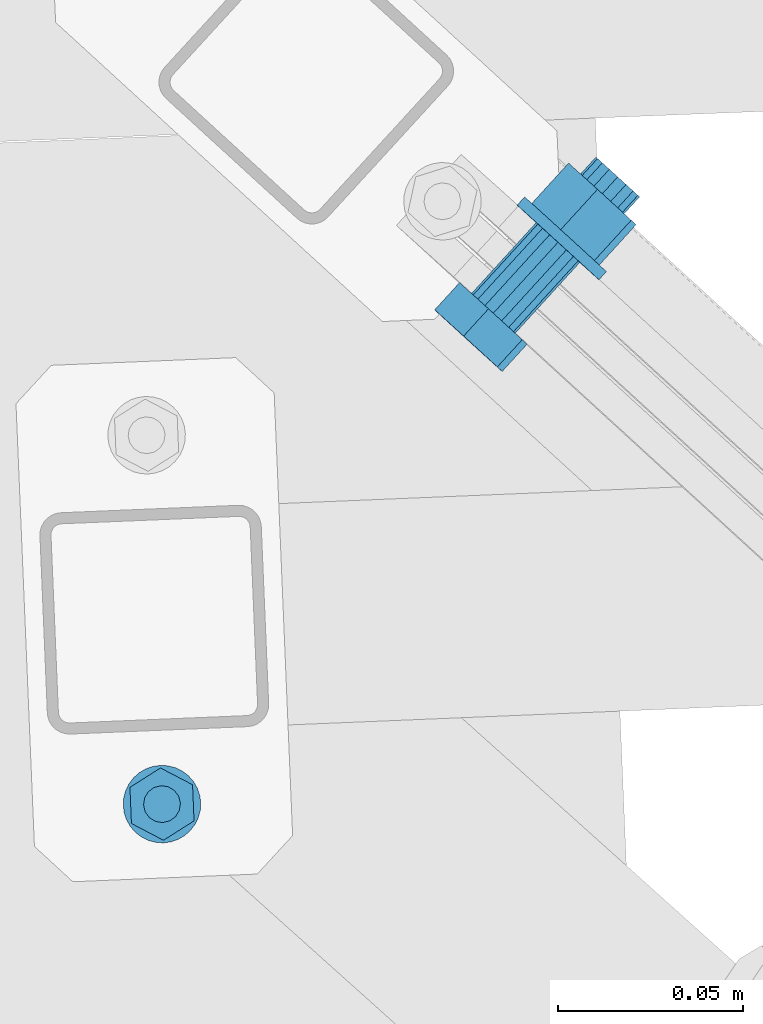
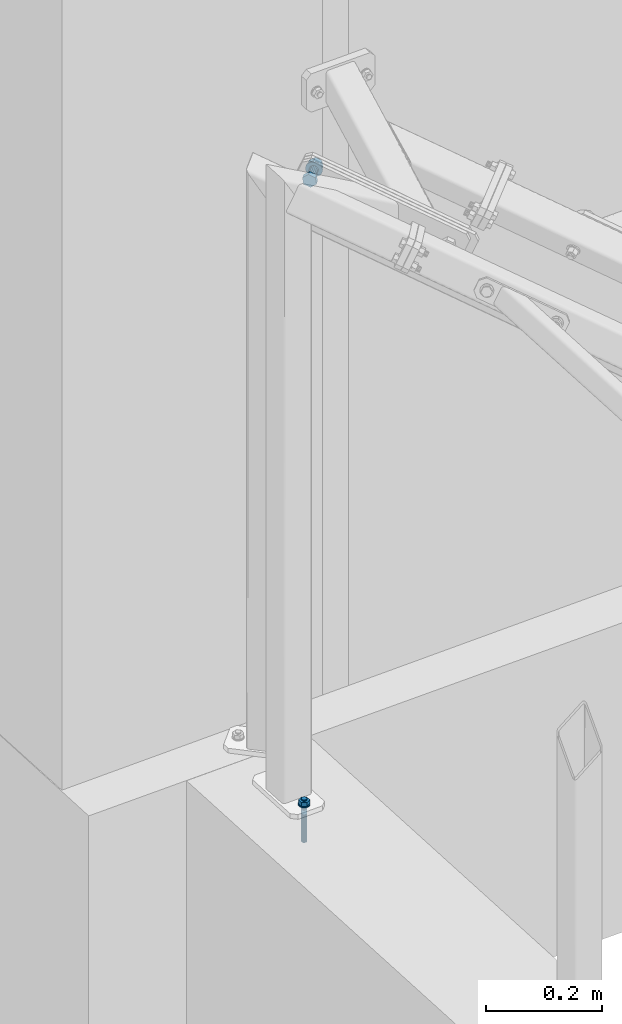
# One storey, part 253 of 288: 2 mechanical fasteners.
"""IFC2X3 building model written with IfcOpenShell, lengths in millimetres."""

from ifc_helpers import new_model, entity, si_unit, converted_unit, origin_with_axes, place, context, project, spatial, faceted_brep, element, save


model = new_model("IFC2X3")

# Units and contexts
model_context = context("Model", 3, precision=1e-09, world=origin_with_axes())
ifc_project = project(units=[si_unit("LENGTHUNIT", "METRE", prefix="MILLI"), si_unit("AREAUNIT", "SQUARE_METRE"), si_unit("VOLUMEUNIT", "CUBIC_METRE"), converted_unit("PLANEANGLEUNIT", "DEGREE", entity("IfcPlaneAngleMeasure", 0.01745329), si_unit("PLANEANGLEUNIT", "RADIAN"), dimensions=[0, 0, 0, 0, 0, 0, 0])], contexts=[model_context])

# Site, building, storey
site_placement = place(None, origin_with_axes())
site = spatial("IfcSite", under=ifc_project, at=site_placement, Name="Remont ?wietlik?w nad MC w NCPP w Opolu", CompositionType="ELEMENT")
building_placement = place(site_placement, origin_with_axes())
building = spatial("IfcBuilding", under=site, at=building_placement, Name="Konstrukcja 1", CompositionType="ELEMENT")
storey_placement = place(building_placement, origin_with_axes())
storey = spatial("IfcBuildingStorey", under=building, at=storey_placement, Name="Default Storey", CompositionType="ELEMENT", Elevation=0.0)

# Mechanical fasteners
mechanical_fastener_1_placement = place(None, origin_with_axes())
element("IfcMechanicalFastener", 1, at=mechanical_fastener_1_placement, inside=storey, ObjectType="Anchor_Bolt", NominalDiameter=10.0, NominalLength=90.0, context=model_context, shape_type="Brep", body=[
    faceted_brep([(-771.450382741, 15245.164944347, 12.010000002), (-771.450382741, 15245.164944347, 10.010000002), (-771.163440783, 15243.126682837, 10.010000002), (-771.163440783, 15243.126682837, 12.010000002), (-770.48436724, 15241.18356555, 10.010000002), (-770.48436724, 15241.18356555, 12.010000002), (-769.439258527, 15239.410265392, 10.010000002), (-769.439258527, 15239.410265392, 12.010000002), (-768.068277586, 15237.874929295, 10.010000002), (-768.068277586, 15237.874929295, 12.010000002), (-766.424110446, 15236.636559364, 10.010000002), (-766.424110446, 15236.636559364, 12.010000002), (-764.569941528, 15235.74274546, 10.010000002), (-764.569941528, 15235.74274546, 12.010000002), (-762.577025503, 15235.227836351, 10.010000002), (-762.577025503, 15235.227836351, 12.010000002), (-760.521949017, 15235.111619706, 10.010000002), (-760.521949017, 15235.111619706, 12.010000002), (-758.483687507, 15235.398561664, 10.010000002), (-758.483687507, 15235.398561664, 12.010000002), (-756.540570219, 15236.077635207, 10.010000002), (-756.540570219, 15236.077635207, 12.010000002), (-754.767270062, 15237.12274392, 10.010000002), (-754.767270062, 15237.12274392, 12.010000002), (-753.231933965, 15238.493724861, 10.010000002), (-753.231933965, 15238.493724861, 12.010000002), (-751.993564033, 15240.137892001, 10.010000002), (-751.993564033, 15240.137892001, 12.010000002), (-751.09975013, 15241.992060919, 10.010000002), (-751.09975013, 15241.992060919, 12.010000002), (-750.584841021, 15243.984976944, 10.010000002), (-750.584841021, 15243.984976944, 12.010000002), (-750.468624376, 15246.04005343, 10.010000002), (-750.468624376, 15246.04005343, 12.010000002), (-750.755566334, 15248.07831494, 10.010000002), (-750.755566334, 15248.07831494, 12.010000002), (-751.434639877, 15250.021432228, 10.010000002), (-751.434639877, 15250.021432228, 12.010000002), (-752.47974859, 15251.794732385, 10.010000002), (-752.47974859, 15251.794732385, 12.010000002), (-753.850729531, 15253.330068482, 10.010000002), (-753.850729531, 15253.330068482, 12.010000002), (-755.494896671, 15254.568438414, 10.010000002), (-755.494896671, 15254.568438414, 12.010000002), (-757.349065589, 15255.462252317, 10.010000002), (-757.349065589, 15255.462252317, 12.010000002), (-759.341981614, 15255.977161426, 10.010000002), (-759.341981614, 15255.977161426, 12.010000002), (-761.3970581, 15256.093378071, 10.010000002), (-761.3970581, 15256.093378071, 12.010000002), (-763.43531961, 15255.806436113, 10.010000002), (-763.43531961, 15255.806436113, 12.010000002), (-765.378436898, 15255.12736257, 10.010000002), (-765.378436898, 15255.12736257, 12.010000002), (-767.151737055, 15254.082253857, 10.010000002), (-767.151737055, 15254.082253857, 12.010000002), (-768.687073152, 15252.711272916, 10.010000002), (-768.687073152, 15252.711272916, 12.010000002), (-769.925443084, 15251.067105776, 10.010000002), (-769.925443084, 15251.067105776, 12.010000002), (-770.819256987, 15249.212936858, 10.010000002), (-770.819256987, 15249.212936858, 12.010000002), (-771.334166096, 15247.220020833, 10.010000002), (-771.334166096, 15247.220020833, 12.010000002)], [[[0, 1, 2, 3]], [[3, 2, 4, 5]], [[5, 4, 6, 7]], [[7, 6, 8, 9]], [[9, 8, 10, 11]], [[11, 10, 12, 13]], [[13, 12, 14, 15]], [[15, 14, 16, 17]], [[17, 16, 18, 19]], [[19, 18, 20, 21]], [[21, 20, 22, 23]], [[23, 22, 24, 25]], [[25, 24, 26, 27]], [[27, 26, 28, 29]], [[29, 28, 30, 31]], [[31, 30, 32, 33]], [[33, 32, 34, 35]], [[35, 34, 36, 37]], [[37, 36, 38, 39]], [[39, 38, 40, 41]], [[41, 40, 42, 43]], [[43, 42, 44, 45]], [[45, 44, 46, 47]], [[47, 46, 48, 49]], [[49, 48, 50, 51]], [[51, 50, 52, 53]], [[53, 52, 54, 55]], [[55, 54, 56, 57]], [[57, 56, 58, 59]], [[59, 58, 60, 61]], [[61, 60, 62, 63]], [[63, 62, 1, 0]], [[0, 3, 5, 7, 9, 11, 13, 15, 17, 19, 21, 23, 25, 27, 29, 31, 33, 35, 37, 39, 41, 43, 45, 47, 49, 51, 53, 55, 57, 59, 61, 63]], [[1, 62, 60, 58, 56, 54, 52, 50, 48, 46, 44, 42, 40, 38, 36, 34, 32, 30, 28, 26, 24, 22, 20, 18, 16, 14, 12, 10, 8, 6, 4, 2]]]),
    faceted_brep([(-752.275634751, 15241.060426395, 12.010000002), (-752.275634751, 15241.060426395, 20.010000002), (-760.55111932, 15235.811011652, 20.010000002), (-760.55111932, 15235.811011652, 12.010000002), (-769.234988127, 15240.353084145, 20.010000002), (-769.234988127, 15240.353084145, 12.010000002), (-769.643372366, 15250.144571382, 20.010000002), (-769.643372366, 15250.144571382, 12.010000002), (-761.367887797, 15255.393986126, 20.010000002), (-761.367887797, 15255.393986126, 12.010000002), (-752.68401899, 15250.851913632, 20.010000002), (-752.68401899, 15250.851913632, 12.010000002)], [[[0, 1, 2, 3]], [[3, 2, 4, 5]], [[5, 4, 6, 7]], [[7, 6, 8, 9]], [[9, 8, 10, 11]], [[11, 10, 1, 0]], [[4, 2, 1, 10, 8, 6]], [[0, 3, 5, 7, 9, 11]]]),
    faceted_brep([(-765.955160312, 15245.394139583, 23.010000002), (-765.955160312, 15245.394139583, 20.010000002), (-765.495152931, 15243.498244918, 20.010000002), (-765.495152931, 15243.498244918, 23.010000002), (-764.344634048, 15241.922703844, 20.010000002), (-764.344634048, 15241.922703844, 23.010000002), (-762.678759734, 15240.907378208, 20.010000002), (-762.678759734, 15240.907378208, 23.010000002), (-760.751144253, 15240.606842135, 20.010000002), (-760.751144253, 15240.606842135, 23.010000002), (-758.855249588, 15241.066849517, 20.010000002), (-758.855249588, 15241.066849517, 23.010000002), (-757.279708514, 15242.217368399, 20.010000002), (-757.279708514, 15242.217368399, 23.010000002), (-756.264382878, 15243.883242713, 20.010000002), (-756.264382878, 15243.883242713, 23.010000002), (-755.963846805, 15245.810858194, 20.010000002), (-755.963846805, 15245.810858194, 23.010000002), (-756.423854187, 15247.70675286, 20.010000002), (-756.423854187, 15247.70675286, 23.010000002), (-757.574373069, 15249.282293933, 20.010000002), (-757.574373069, 15249.282293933, 23.010000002), (-759.240247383, 15250.297619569, 20.010000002), (-759.240247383, 15250.297619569, 23.010000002), (-761.167862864, 15250.598155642, 20.010000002), (-761.167862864, 15250.598155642, 23.010000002), (-763.063757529, 15250.138148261, 20.010000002), (-763.063757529, 15250.138148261, 23.010000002), (-764.639298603, 15248.987629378, 20.010000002), (-764.639298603, 15248.987629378, 23.010000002), (-765.654624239, 15247.321755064, 20.010000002), (-765.654624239, 15247.321755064, 23.010000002)], [[[0, 1, 2, 3]], [[3, 2, 4, 5]], [[5, 4, 6, 7]], [[7, 6, 8, 9]], [[9, 8, 10, 11]], [[11, 10, 12, 13]], [[13, 12, 14, 15]], [[15, 14, 16, 17]], [[17, 16, 18, 19]], [[19, 18, 20, 21]], [[21, 20, 22, 23]], [[23, 22, 24, 25]], [[25, 24, 26, 27]], [[27, 26, 28, 29]], [[29, 28, 30, 31]], [[31, 30, 1, 0]], [[0, 3, 5, 7, 9, 11, 13, 15, 17, 19, 21, 23, 25, 27, 29, 31]], [[1, 30, 28, 26, 24, 22, 20, 18, 16, 14, 12, 10, 8, 6, 4, 2]]]),
    faceted_brep([(-765.955160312, 15245.394139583, 10.010000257), (-765.955160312, 15245.394139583, 0.010000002), (-765.495152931, 15243.498244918, 0.010000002), (-765.495152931, 15243.498244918, 10.010000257), (-764.344634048, 15241.922703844, 0.010000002), (-764.344634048, 15241.922703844, 10.010000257), (-762.678759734, 15240.907378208, 0.010000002), (-762.678759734, 15240.907378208, 10.010000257), (-760.751144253, 15240.606842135, 0.010000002), (-760.751144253, 15240.606842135, 10.010000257), (-758.855249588, 15241.066849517, 0.010000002), (-758.855249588, 15241.066849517, 10.010000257), (-757.279708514, 15242.217368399, 0.010000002), (-757.279708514, 15242.217368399, 10.010000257), (-756.264382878, 15243.883242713, 0.010000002), (-756.264382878, 15243.883242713, 10.010000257), (-755.963846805, 15245.810858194, 0.010000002), (-755.963846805, 15245.810858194, 10.010000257), (-756.423854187, 15247.70675286, 0.010000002), (-756.423854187, 15247.70675286, 10.010000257), (-757.574373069, 15249.282293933, 0.010000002), (-757.574373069, 15249.282293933, 10.010000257), (-759.240247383, 15250.297619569, 0.010000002), (-759.240247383, 15250.297619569, 10.010000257), (-761.167862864, 15250.598155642, 0.010000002), (-761.167862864, 15250.598155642, 10.010000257), (-763.063757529, 15250.138148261, 0.010000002), (-763.063757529, 15250.138148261, 10.010000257), (-764.639298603, 15248.987629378, 0.010000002), (-764.639298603, 15248.987629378, 10.010000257), (-765.654624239, 15247.321755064, 0.010000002), (-765.654624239, 15247.321755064, 10.010000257)], [[[0, 1, 2, 3]], [[3, 2, 4, 5]], [[5, 4, 6, 7]], [[7, 6, 8, 9]], [[9, 8, 10, 11]], [[11, 10, 12, 13]], [[13, 12, 14, 15]], [[15, 14, 16, 17]], [[17, 16, 18, 19]], [[19, 18, 20, 21]], [[21, 20, 22, 23]], [[23, 22, 24, 25]], [[25, 24, 26, 27]], [[27, 26, 28, 29]], [[29, 28, 30, 31]], [[31, 30, 1, 0]], [[0, 3, 5, 7, 9, 11, 13, 15, 17, 19, 21, 23, 25, 27, 29, 31]], [[1, 30, 28, 26, 24, 22, 20, 18, 16, 14, 12, 10, 8, 6, 4, 2]]]),
    faceted_brep([(-765.955160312, 15245.394139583, 0.009999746), (-765.955160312, 15245.394139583, -6.989999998), (-765.818521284, 15244.423538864, -6.989999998), (-765.818521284, 15244.423538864, 0.009999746), (-765.495152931, 15243.498244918, -6.989999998), (-765.495152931, 15243.498244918, 0.009999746), (-764.997482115, 15242.653816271, -6.989999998), (-764.997482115, 15242.653816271, 0.009999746), (-764.344634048, 15241.922703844, -6.989999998), (-764.344634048, 15241.922703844, 0.009999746), (-763.561697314, 15241.333003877, -6.989999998), (-763.561697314, 15241.333003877, 0.009999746), (-762.678759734, 15240.907378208, -6.989999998), (-762.678759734, 15240.907378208, 0.009999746), (-761.729752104, 15240.662183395, -6.989999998), (-761.729752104, 15240.662183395, 0.009999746), (-760.751144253, 15240.606842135, -6.989999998), (-760.751144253, 15240.606842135, 0.009999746), (-759.780543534, 15240.743481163, -6.989999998), (-759.780543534, 15240.743481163, 0.009999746), (-758.855249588, 15241.066849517, -6.989999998), (-758.855249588, 15241.066849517, 0.009999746), (-758.010820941, 15241.564520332, -6.989999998), (-758.010820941, 15241.564520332, 0.009999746), (-757.279708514, 15242.217368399, -6.989999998), (-757.279708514, 15242.217368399, 0.009999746), (-756.690008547, 15243.000305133, -6.989999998), (-756.690008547, 15243.000305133, 0.009999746), (-756.264382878, 15243.883242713, -6.989999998), (-756.264382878, 15243.883242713, 0.009999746), (-756.019188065, 15244.832250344, -6.989999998), (-756.019188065, 15244.832250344, 0.009999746), (-755.963846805, 15245.810858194, -6.989999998), (-755.963846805, 15245.810858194, 0.009999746), (-756.100485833, 15246.781458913, -6.989999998), (-756.100485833, 15246.781458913, 0.009999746), (-756.423854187, 15247.70675286, -6.989999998), (-756.423854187, 15247.70675286, 0.009999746), (-756.921525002, 15248.551181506, -6.989999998), (-756.921525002, 15248.551181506, 0.009999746), (-757.574373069, 15249.282293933, -6.989999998), (-757.574373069, 15249.282293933, 0.009999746), (-758.357309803, 15249.871993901, -6.989999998), (-758.357309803, 15249.871993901, 0.009999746), (-759.240247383, 15250.297619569, -6.989999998), (-759.240247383, 15250.297619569, 0.009999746), (-760.189255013, 15250.542814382, -6.989999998), (-760.189255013, 15250.542814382, 0.009999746), (-761.167862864, 15250.598155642, -6.989999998), (-761.167862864, 15250.598155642, 0.009999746), (-762.138463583, 15250.461516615, -6.989999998), (-762.138463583, 15250.461516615, 0.009999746), (-763.063757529, 15250.138148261, -6.989999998), (-763.063757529, 15250.138148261, 0.009999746), (-763.908186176, 15249.640477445, -6.989999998), (-763.908186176, 15249.640477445, 0.009999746), (-764.639298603, 15248.987629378, -6.989999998), (-764.639298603, 15248.987629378, 0.009999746), (-765.22899857, 15248.204692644, -6.989999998), (-765.22899857, 15248.204692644, 0.009999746), (-765.654624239, 15247.321755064, -6.989999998), (-765.654624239, 15247.321755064, 0.009999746), (-765.899819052, 15246.372747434, -6.989999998), (-765.899819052, 15246.372747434, 0.009999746)], [[[0, 1, 2, 3]], [[3, 2, 4, 5]], [[5, 4, 6, 7]], [[7, 6, 8, 9]], [[9, 8, 10, 11]], [[11, 10, 12, 13]], [[13, 12, 14, 15]], [[15, 14, 16, 17]], [[17, 16, 18, 19]], [[19, 18, 20, 21]], [[21, 20, 22, 23]], [[23, 22, 24, 25]], [[25, 24, 26, 27]], [[27, 26, 28, 29]], [[29, 28, 30, 31]], [[31, 30, 32, 33]], [[33, 32, 34, 35]], [[35, 34, 36, 37]], [[37, 36, 38, 39]], [[39, 38, 40, 41]], [[41, 40, 42, 43]], [[43, 42, 44, 45]], [[45, 44, 46, 47]], [[47, 46, 48, 49]], [[49, 48, 50, 51]], [[51, 50, 52, 53]], [[53, 52, 54, 55]], [[55, 54, 56, 57]], [[57, 56, 58, 59]], [[59, 58, 60, 61]], [[61, 60, 62, 63]], [[63, 62, 1, 0]], [[0, 3, 5, 7, 9, 11, 13, 15, 17, 19, 21, 23, 25, 27, 29, 31, 33, 35, 37, 39, 41, 43, 45, 47, 49, 51, 53, 55, 57, 59, 61, 63]], [[1, 62, 60, 58, 56, 54, 52, 50, 48, 46, 44, 42, 40, 38, 36, 34, 32, 30, 28, 26, 24, 22, 20, 18, 16, 14, 12, 10, 8, 6, 4, 2]]]),
    faceted_brep([(-765.955160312, 15245.394139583, -6.989999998), (-765.955160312, 15245.394139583, -66.989999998), (-765.495152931, 15243.498244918, -66.989999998), (-765.495152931, 15243.498244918, -6.989999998), (-764.344634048, 15241.922703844, -66.989999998), (-764.344634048, 15241.922703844, -6.989999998), (-762.678759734, 15240.907378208, -66.989999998), (-762.678759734, 15240.907378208, -6.989999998), (-760.751144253, 15240.606842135, -66.989999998), (-760.751144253, 15240.606842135, -6.989999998), (-758.855249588, 15241.066849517, -66.989999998), (-758.855249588, 15241.066849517, -6.989999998), (-757.279708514, 15242.217368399, -66.989999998), (-757.279708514, 15242.217368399, -6.989999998), (-756.264382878, 15243.883242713, -66.989999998), (-756.264382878, 15243.883242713, -6.989999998), (-755.963846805, 15245.810858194, -66.989999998), (-755.963846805, 15245.810858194, -6.989999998), (-756.423854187, 15247.70675286, -66.989999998), (-756.423854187, 15247.70675286, -6.989999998), (-757.574373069, 15249.282293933, -66.989999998), (-757.574373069, 15249.282293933, -6.989999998), (-759.240247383, 15250.297619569, -66.989999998), (-759.240247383, 15250.297619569, -6.989999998), (-761.167862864, 15250.598155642, -66.989999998), (-761.167862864, 15250.598155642, -6.989999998), (-763.063757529, 15250.138148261, -66.989999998), (-763.063757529, 15250.138148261, -6.989999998), (-764.639298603, 15248.987629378, -66.989999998), (-764.639298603, 15248.987629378, -6.989999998), (-765.654624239, 15247.321755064, -66.989999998), (-765.654624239, 15247.321755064, -6.989999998)], [[[0, 1, 2, 3]], [[3, 2, 4, 5]], [[5, 4, 6, 7]], [[7, 6, 8, 9]], [[9, 8, 10, 11]], [[11, 10, 12, 13]], [[13, 12, 14, 15]], [[15, 14, 16, 17]], [[17, 16, 18, 19]], [[19, 18, 20, 21]], [[21, 20, 22, 23]], [[23, 22, 24, 25]], [[25, 24, 26, 27]], [[27, 26, 28, 29]], [[29, 28, 30, 31]], [[31, 30, 1, 0]], [[0, 3, 5, 7, 9, 11, 13, 15, 17, 19, 21, 23, 25, 27, 29, 31]], [[1, 30, 28, 26, 24, 22, 20, 18, 16, 14, 12, 10, 8, 6, 4, 2]]]),
])
mechanical_fastener_2_placement = place(None, origin_with_axes())
element("IfcMechanicalFastener", 2, at=mechanical_fastener_2_placement, inside=storey, ObjectType="-", NominalDiameter=16.0, NominalLength=50.0, context=model_context, shape_type="Brep", body=[
    faceted_brep([(-663.387489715, 15371.406661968, 1222.813577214), (-670.127516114, 15364.019462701, 1222.850061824), (-668.829917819, 15362.770087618, 1209.596914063), (-662.08989142, 15370.157286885, 1209.560429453), (-676.663770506, 15369.877207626, 1201.410936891), (-669.923744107, 15377.264406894, 1201.37445228), (-685.795221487, 15378.233702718, 1206.478107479), (-679.055195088, 15385.620901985, 1206.441622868), (-687.092819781, 15379.483077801, 1219.731255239), (-680.352793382, 15386.870277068, 1219.694770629), (-679.258967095, 15372.375957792, 1227.917232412), (-672.518940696, 15379.76315706, 1227.880747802)], [[[0, 1, 2, 3]], [[3, 2, 4, 5]], [[5, 4, 6, 7]], [[7, 6, 8, 9]], [[9, 8, 10, 11]], [[11, 10, 1, 0]], [[4, 2, 1, 10, 8, 6]], [[0, 3, 5, 7, 9, 11]]]),
    faceted_brep([(-673.478513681, 15380.536642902, 1207.224005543), (-655.954445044, 15399.743360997, 1207.129145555), (-653.6924868, 15397.676621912, 1206.532861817), (-671.216555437, 15378.469903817, 1206.627721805), (-651.431257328, 15395.616562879, 1207.154487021), (-668.955325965, 15376.409844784, 1207.249347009), (-649.515008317, 15393.876809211, 1208.899384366), (-667.039076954, 15374.670091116, 1208.994244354), (-648.235471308, 15392.722222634, 1211.501909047), (-665.759539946, 15373.515504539, 1211.596769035), (-647.787444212, 15392.328578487, 1214.565850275), (-665.311512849, 15373.121860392, 1214.660710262), (-648.239135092, 15392.755805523, 1217.624750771), (-665.763203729, 15373.549087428, 1217.719610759), (-649.521778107, 15393.9388623, 1220.212920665), (-667.045846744, 15374.732144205, 1220.307780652), (-651.440102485, 15395.697639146, 1221.936334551), (-668.964171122, 15376.490921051, 1222.031194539), (-653.702060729, 15397.764378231, 1222.532618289), (-671.226129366, 15378.557660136, 1222.627478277), (-655.9632902, 15399.824437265, 1221.910993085), (-673.487358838, 15380.61771917, 1222.005853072), (-657.879539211, 15401.564190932, 1220.16609574), (-675.403607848, 15382.357472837, 1220.260955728), (-659.15907622, 15402.71877751, 1217.563571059), (-676.683144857, 15383.512059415, 1217.658431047), (-659.607103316, 15403.112421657, 1214.499629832), (-677.131171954, 15383.905703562, 1214.594489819), (-659.155412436, 15402.68519462, 1211.440729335), (-676.679481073, 15383.478476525, 1211.535589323), (-657.872769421, 15401.502137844, 1208.852559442), (-675.396838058, 15382.295419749, 1208.947419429)], [[[0, 1, 2, 3]], [[3, 2, 4, 5]], [[5, 4, 6, 7]], [[7, 6, 8, 9]], [[9, 8, 10, 11]], [[11, 10, 12, 13]], [[13, 12, 14, 15]], [[15, 14, 16, 17]], [[17, 16, 18, 19]], [[19, 18, 20, 21]], [[21, 20, 22, 23]], [[23, 22, 24, 25]], [[25, 24, 26, 27]], [[27, 26, 28, 29]], [[29, 28, 30, 31]], [[31, 30, 1, 0]], [[0, 3, 5, 7, 9, 11, 13, 15, 17, 19, 21, 23, 25, 27, 29, 31]], [[1, 30, 28, 26, 24, 22, 20, 18, 16, 14, 12, 10, 8, 6, 4, 2]]]),
    faceted_brep([(-657.929469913, 15401.513364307, 1200.651000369), (-655.907461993, 15403.729524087, 1200.640054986), (-653.828245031, 15401.828303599, 1199.798127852), (-655.850252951, 15399.612143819, 1199.809073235), (-651.666290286, 15399.854388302, 1199.522022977), (-653.688298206, 15397.638228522, 1199.53296836), (-649.504680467, 15397.883634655, 1199.822350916), (-651.526688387, 15395.667474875, 1199.8332963), (-647.426485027, 15395.991777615, 1200.687570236), (-649.448492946, 15393.775617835, 1200.698515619), (-645.51156785, 15394.251520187, 1202.084431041), (-647.53357577, 15392.035360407, 1202.095376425), (-643.833518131, 15392.729739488, 1203.959252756), (-645.855526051, 15390.513579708, 1203.97019814), (-642.456822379, 15391.484916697, 1206.239987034), (-644.478830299, 15389.268756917, 1206.250932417), (-641.43438624, 15390.564889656, 1208.838986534), (-643.456394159, 15388.348729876, 1208.849931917), (-640.80550136, 15390.005014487, 1211.656373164), (-642.82750928, 15387.788854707, 1211.667318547), (-640.594335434, 15389.82680688, 1214.583876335), (-642.616343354, 15387.6106471, 1214.594821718), (-640.80900345, 15390.037115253, 1217.508993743), (-642.831011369, 15387.820955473, 1217.519939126), (-641.441255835, 15390.627857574, 1220.319314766), (-643.463263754, 15388.411697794, 1220.330260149), (-642.466795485, 15391.576331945, 1222.906840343), (-644.488803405, 15389.360172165, 1222.917785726), (-643.846211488, 15392.84608903, 1225.172133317), (-645.868219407, 15390.629929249, 1225.1830787), (-645.526493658, 15394.388332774, 1227.028139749), (-647.548501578, 15392.172172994, 1227.039085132), (-647.443069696, 15396.143795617, 1228.403534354), (-649.465077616, 15393.927635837, 1228.414479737), (-649.522286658, 15398.045016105, 1229.245461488), (-651.544294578, 15395.828856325, 1229.256406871), (-651.684241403, 15400.018931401, 1229.521566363), (-653.706249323, 15397.802771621, 1229.532511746), (-653.845851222, 15401.989685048, 1229.221238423), (-655.867859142, 15399.773525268, 1229.232183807), (-655.924046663, 15403.881542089, 1228.356019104), (-657.946054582, 15401.665382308, 1228.366964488), (-657.838963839, 15405.621799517, 1226.959158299), (-659.860971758, 15403.405639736, 1226.970103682), (-659.517013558, 15407.143580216, 1225.084336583), (-661.539021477, 15404.927420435, 1225.095281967), (-660.89370931, 15408.388403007, 1222.803602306), (-662.91571723, 15406.172243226, 1222.814547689), (-661.916145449, 15409.308430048, 1220.204602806), (-663.938153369, 15407.092270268, 1220.215548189), (-662.545030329, 15409.868305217, 1217.387216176), (-664.567038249, 15407.652145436, 1217.398161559), (-662.756196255, 15410.046512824, 1214.459713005), (-664.778204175, 15407.830353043, 1214.470658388), (-662.54152824, 15409.83620445, 1211.534595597), (-664.563536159, 15407.62004467, 1211.54554098), (-661.909275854, 15409.24546213, 1208.724274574), (-663.931283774, 15407.02930235, 1208.735219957), (-660.883736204, 15408.296987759, 1206.136748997), (-662.905744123, 15406.080827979, 1206.14769438), (-659.504320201, 15407.027230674, 1203.871456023), (-661.526328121, 15404.811070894, 1203.882401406), (-657.824038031, 15405.48498693, 1202.015449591), (-659.84604595, 15403.26882715, 1202.026394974)], [[[0, 1, 2, 3]], [[3, 2, 4, 5]], [[5, 4, 6, 7]], [[7, 6, 8, 9]], [[9, 8, 10, 11]], [[11, 10, 12, 13]], [[13, 12, 14, 15]], [[15, 14, 16, 17]], [[17, 16, 18, 19]], [[19, 18, 20, 21]], [[21, 20, 22, 23]], [[23, 22, 24, 25]], [[25, 24, 26, 27]], [[27, 26, 28, 29]], [[29, 28, 30, 31]], [[31, 30, 32, 33]], [[33, 32, 34, 35]], [[35, 34, 36, 37]], [[37, 36, 38, 39]], [[39, 38, 40, 41]], [[41, 40, 42, 43]], [[43, 42, 44, 45]], [[45, 44, 46, 47]], [[47, 46, 48, 49]], [[49, 48, 50, 51]], [[51, 50, 52, 53]], [[53, 52, 54, 55]], [[55, 54, 56, 57]], [[57, 56, 58, 59]], [[59, 58, 60, 61]], [[61, 60, 62, 63]], [[63, 62, 1, 0]], [[0, 3, 5, 7, 9, 11, 13, 15, 17, 19, 21, 23, 25, 27, 29, 31, 33, 35, 37, 39, 41, 43, 45, 47, 49, 51, 53, 55, 57, 59, 61, 63]], [[1, 62, 60, 58, 56, 54, 52, 50, 48, 46, 44, 42, 40, 38, 36, 34, 32, 30, 28, 26, 24, 22, 20, 18, 16, 14, 12, 10, 8, 6, 4, 2]]]),
    faceted_brep([(-633.866174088, 15403.762594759, 1222.653774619), (-643.841413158, 15392.829539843, 1222.707771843), (-642.543814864, 15391.58016476, 1209.454624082), (-632.568575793, 15402.513219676, 1209.400626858), (-650.37766755, 15398.687284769, 1201.268646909), (-640.40242848, 15409.620339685, 1201.214649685), (-659.509118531, 15407.043779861, 1206.335817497), (-649.533879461, 15417.976834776, 1206.281820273), (-660.806716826, 15408.293154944, 1219.588965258), (-650.831477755, 15419.226209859, 1219.534968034), (-652.972864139, 15401.186034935, 1227.774942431), (-642.997625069, 15412.119089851, 1227.720945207)], [[[0, 1, 2, 3]], [[3, 2, 4, 5]], [[5, 4, 6, 7]], [[7, 6, 8, 9]], [[9, 8, 10, 11]], [[11, 10, 1, 0]], [[4, 2, 1, 10, 8, 6]], [[0, 3, 5, 7, 9, 11]]]),
    faceted_brep([(-643.957198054, 15412.892575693, 1207.064202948), (-639.778381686, 15417.472639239, 1207.041582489), (-637.516423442, 15415.405900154, 1206.445298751), (-641.69523981, 15410.825836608, 1206.46791921), (-635.255193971, 15413.345841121, 1207.066923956), (-639.434010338, 15408.765777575, 1207.089544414), (-633.33894496, 15411.606087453, 1208.8118213), (-637.517761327, 15407.026023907, 1208.834441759), (-632.059407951, 15410.451500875, 1211.414345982), (-636.238224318, 15405.87143733, 1211.43696644), (-631.611380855, 15410.057856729, 1214.478287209), (-635.790197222, 15405.477793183, 1214.500907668), (-632.063071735, 15410.485083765, 1217.537187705), (-636.241888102, 15405.905020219, 1217.559808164), (-633.34571475, 15411.668140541, 1220.125357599), (-637.524531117, 15407.088076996, 1220.147978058), (-635.264039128, 15413.426917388, 1221.848771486), (-639.442855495, 15408.846853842, 1221.871391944), (-637.525997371, 15415.493656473, 1222.445055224), (-641.704813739, 15410.913592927, 1222.467675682), (-639.787226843, 15417.553715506, 1221.823430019), (-643.96604321, 15412.97365196, 1221.846050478), (-641.703475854, 15419.293469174, 1220.078532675), (-645.882292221, 15414.713405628, 1220.101153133), (-642.983012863, 15420.448055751, 1217.476007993), (-647.16182923, 15415.867992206, 1217.498628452), (-643.431039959, 15420.841699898, 1214.412066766), (-647.609856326, 15416.261636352, 1214.434687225), (-642.979349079, 15420.414472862, 1211.35316627), (-647.158165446, 15415.834409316, 1211.375786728), (-641.696706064, 15419.231416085, 1208.764996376), (-645.875522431, 15414.65135254, 1208.787616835)], [[[0, 1, 2, 3]], [[3, 2, 4, 5]], [[5, 4, 6, 7]], [[7, 6, 8, 9]], [[9, 8, 10, 11]], [[11, 10, 12, 13]], [[13, 12, 14, 15]], [[15, 14, 16, 17]], [[17, 16, 18, 19]], [[19, 18, 20, 21]], [[21, 20, 22, 23]], [[23, 22, 24, 25]], [[25, 24, 26, 27]], [[27, 26, 28, 29]], [[29, 28, 30, 31]], [[31, 30, 1, 0]], [[0, 3, 5, 7, 9, 11, 13, 15, 17, 19, 21, 23, 25, 27, 29, 31]], [[1, 30, 28, 26, 24, 22, 20, 18, 16, 14, 12, 10, 8, 6, 4, 2]]]),
])

save(model, "model.ifc")
